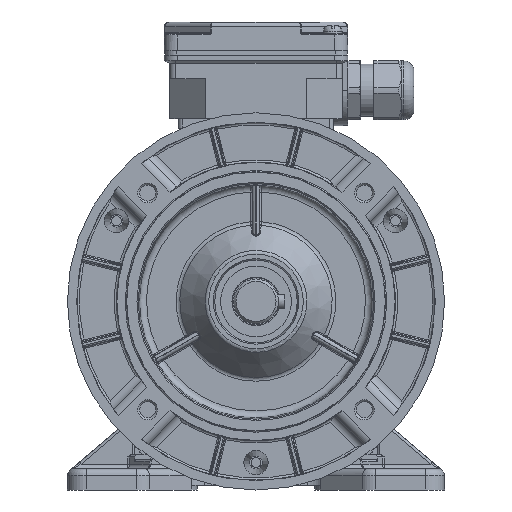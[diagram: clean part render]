
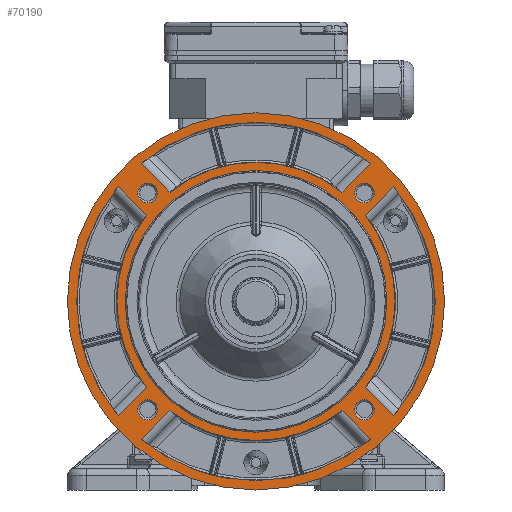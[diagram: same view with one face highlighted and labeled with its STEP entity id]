
A CAD part, left-side view. The second image highlights one B-rep face of the part: STEP entity #70190.
In plain terms, the highlighted planar face has unit normal (-1, 0, 0).
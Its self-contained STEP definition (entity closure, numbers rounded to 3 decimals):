
#4696=LINE('',#103938,#8316);
#4697=LINE('',#103947,#8317);
#4698=LINE('',#103966,#8318);
#4699=LINE('',#103975,#8319);
#4700=LINE('',#103982,#8320);
#4701=LINE('',#104001,#8321);
#4703=LINE('',#104389,#8323);
#4704=LINE('',#104400,#8324);
#8316=VECTOR('',#84265,1000.);
#8317=VECTOR('',#84272,1000.);
#8318=VECTOR('',#84279,1000.);
#8319=VECTOR('',#84286,1000.);
#8320=VECTOR('',#84289,1000.);
#8321=VECTOR('',#84296,1000.);
#8323=VECTOR('',#84366,1000.);
#8324=VECTOR('',#84373,1000.);
#18893=ORIENTED_EDGE('',*,*,#30283,.T.);
#18894=ORIENTED_EDGE('',*,*,#30282,.T.);
#18895=ORIENTED_EDGE('',*,*,#30281,.T.);
#18896=ORIENTED_EDGE('',*,*,#30280,.T.);
#18897=ORIENTED_EDGE('',*,*,#30279,.T.);
#18898=ORIENTED_EDGE('',*,*,#30328,.T.);
#18899=ORIENTED_EDGE('',*,*,#30326,.T.);
#18900=ORIENTED_EDGE('',*,*,#30329,.T.);
#18901=ORIENTED_EDGE('',*,*,#30330,.F.);
#18902=ORIENTED_EDGE('',*,*,#30331,.F.);
#18903=ORIENTED_EDGE('',*,*,#30278,.T.);
#18904=ORIENTED_EDGE('',*,*,#30277,.F.);
#18905=ORIENTED_EDGE('',*,*,#30274,.F.);
#18906=ORIENTED_EDGE('',*,*,#30272,.T.);
#18907=ORIENTED_EDGE('',*,*,#30270,.T.);
#18908=ORIENTED_EDGE('',*,*,#30268,.T.);
#18909=ORIENTED_EDGE('',*,*,#30267,.F.);
#18910=ORIENTED_EDGE('',*,*,#30264,.F.);
#18911=ORIENTED_EDGE('',*,*,#30262,.T.);
#18912=ORIENTED_EDGE('',*,*,#30260,.T.);
#18913=ORIENTED_EDGE('',*,*,#30259,.F.);
#18914=ORIENTED_EDGE('',*,*,#30256,.F.);
#30256=EDGE_CURVE('',#36594,#36595,#40259,.T.);
#30259=EDGE_CURVE('',#36595,#36596,#4696,.T.);
#30260=EDGE_CURVE('',#36597,#36596,#40260,.T.);
#30262=EDGE_CURVE('',#36594,#36597,#4697,.T.);
#30264=EDGE_CURVE('',#36598,#36599,#40261,.T.);
#30267=EDGE_CURVE('',#36599,#36600,#4698,.T.);
#30268=EDGE_CURVE('',#36601,#36600,#40262,.T.);
#30270=EDGE_CURVE('',#36598,#36601,#4699,.T.);
#30272=EDGE_CURVE('',#36603,#36602,#4700,.T.);
#30274=EDGE_CURVE('',#36603,#36604,#40263,.T.);
#30277=EDGE_CURVE('',#36604,#36605,#4701,.T.);
#30278=EDGE_CURVE('',#36602,#36605,#40264,.T.);
#30279=EDGE_CURVE('',#36606,#36606,#40265,.F.);
#30280=EDGE_CURVE('',#36607,#36607,#40266,.F.);
#30281=EDGE_CURVE('',#36608,#36608,#40267,.F.);
#30282=EDGE_CURVE('',#36609,#36609,#40268,.F.);
#30283=EDGE_CURVE('',#36610,#36610,#40269,.F.);
#30326=EDGE_CURVE('',#36632,#36631,#4703,.T.);
#30328=EDGE_CURVE('',#36633,#36633,#40284,.T.);
#30329=EDGE_CURVE('',#36631,#36634,#40285,.T.);
#30330=EDGE_CURVE('',#36635,#36634,#4704,.T.);
#30331=EDGE_CURVE('',#36632,#36635,#40286,.T.);
#36594=VERTEX_POINT('',#103925);
#36595=VERTEX_POINT('',#103927);
#36596=VERTEX_POINT('',#103937);
#36597=VERTEX_POINT('',#103941);
#36598=VERTEX_POINT('',#103953);
#36599=VERTEX_POINT('',#103955);
#36600=VERTEX_POINT('',#103965);
#36601=VERTEX_POINT('',#103969);
#36602=VERTEX_POINT('',#103981);
#36603=VERTEX_POINT('',#103983);
#36604=VERTEX_POINT('',#103990);
#36605=VERTEX_POINT('',#104000);
#36606=VERTEX_POINT('',#104006);
#36607=VERTEX_POINT('',#104009);
#36608=VERTEX_POINT('',#104012);
#36609=VERTEX_POINT('',#104015);
#36610=VERTEX_POINT('',#104018);
#36631=VERTEX_POINT('',#104388);
#36632=VERTEX_POINT('',#104390);
#36633=VERTEX_POINT('',#104397);
#36634=VERTEX_POINT('',#104399);
#36635=VERTEX_POINT('',#104401);
#40259=CIRCLE('',#74287,76.);
#40260=CIRCLE('',#74290,59.);
#40261=CIRCLE('',#74293,76.);
#40262=CIRCLE('',#74296,59.);
#40263=CIRCLE('',#74300,76.);
#40264=CIRCLE('',#74303,59.);
#40265=CIRCLE('',#74305,4.2);
#40266=CIRCLE('',#74307,4.2);
#40267=CIRCLE('',#74309,4.2);
#40268=CIRCLE('',#74311,4.2);
#40269=CIRCLE('',#74313,55.5);
#40284=CIRCLE('',#74337,80.);
#40285=CIRCLE('',#74338,59.);
#40286=CIRCLE('',#74339,76.);
#43064=EDGE_LOOP('',(#18893));
#43065=EDGE_LOOP('',(#18894));
#43066=EDGE_LOOP('',(#18895));
#43067=EDGE_LOOP('',(#18896));
#43068=EDGE_LOOP('',(#18897));
#43069=EDGE_LOOP('',(#18898));
#43070=EDGE_LOOP('',(#18899,#18900,#18901,#18902));
#43071=EDGE_LOOP('',(#18903,#18904,#18905,#18906));
#43072=EDGE_LOOP('',(#18907,#18908,#18909,#18910));
#43073=EDGE_LOOP('',(#18911,#18912,#18913,#18914));
#46525=FACE_BOUND('',#43064,.T.);
#46526=FACE_BOUND('',#43065,.T.);
#46527=FACE_BOUND('',#43066,.T.);
#46528=FACE_BOUND('',#43067,.T.);
#46529=FACE_BOUND('',#43068,.T.);
#46530=FACE_BOUND('',#43069,.T.);
#46531=FACE_BOUND('',#43070,.T.);
#46532=FACE_BOUND('',#43071,.T.);
#46533=FACE_BOUND('',#43072,.T.);
#46534=FACE_BOUND('',#43073,.T.);
#48865=PLANE('',#74336);
#70190=ADVANCED_FACE('',(#46525,#46526,#46527,#46528,#46529,#46530,#46531,
#46532,#46533,#46534),#48865,.T.);
#74287=AXIS2_PLACEMENT_3D('',#103926,#84261,#84262);
#74290=AXIS2_PLACEMENT_3D('',#103940,#84268,#84269);
#74293=AXIS2_PLACEMENT_3D('',#103954,#84275,#84276);
#74296=AXIS2_PLACEMENT_3D('',#103968,#84282,#84283);
#74300=AXIS2_PLACEMENT_3D('',#103989,#84292,#84293);
#74303=AXIS2_PLACEMENT_3D('',#104003,#84299,#84300);
#74305=AXIS2_PLACEMENT_3D('',#104005,#84303,#84304);
#74307=AXIS2_PLACEMENT_3D('',#104008,#84307,#84308);
#74309=AXIS2_PLACEMENT_3D('',#104011,#84311,#84312);
#74311=AXIS2_PLACEMENT_3D('',#104014,#84315,#84316);
#74313=AXIS2_PLACEMENT_3D('',#104017,#84319,#84320);
#74336=AXIS2_PLACEMENT_3D('',#104395,#84367,#84368);
#74337=AXIS2_PLACEMENT_3D('',#104396,#84369,#84370);
#74338=AXIS2_PLACEMENT_3D('',#104398,#84371,#84372);
#74339=AXIS2_PLACEMENT_3D('',#104402,#84374,#84375);
#84261=DIRECTION('',(-1.,0.,0.));
#84262=DIRECTION('',(0.,0.,1.));
#84265=DIRECTION('',(0.,-0.707,0.707));
#84268=DIRECTION('',(-1.,0.,0.));
#84269=DIRECTION('',(0.,0.,1.));
#84272=DIRECTION('',(0.,-0.707,-0.707));
#84275=DIRECTION('',(-1.,0.,0.));
#84276=DIRECTION('',(0.,0.,1.));
#84279=DIRECTION('',(0.,-0.707,-0.707));
#84282=DIRECTION('',(-1.,0.,0.));
#84283=DIRECTION('',(0.,0.,1.));
#84286=DIRECTION('',(0.,0.707,-0.707));
#84289=DIRECTION('',(0.,-0.707,0.707));
#84292=DIRECTION('',(-1.,0.,0.));
#84293=DIRECTION('',(0.,0.,1.));
#84296=DIRECTION('',(0.,0.707,0.707));
#84299=DIRECTION('',(-1.,0.,0.));
#84300=DIRECTION('',(0.,0.,1.));
#84303=DIRECTION('',(-1.,0.,0.));
#84304=DIRECTION('',(0.,-1.,0.));
#84307=DIRECTION('',(-1.,0.,0.));
#84308=DIRECTION('',(0.,-1.,0.));
#84311=DIRECTION('',(-1.,0.,0.));
#84312=DIRECTION('',(0.,-1.,0.));
#84315=DIRECTION('',(-1.,0.,0.));
#84316=DIRECTION('',(0.,-1.,0.));
#84319=DIRECTION('',(-1.,0.,0.));
#84320=DIRECTION('',(0.,-1.,0.));
#84366=DIRECTION('',(0.,0.707,0.707));
#84367=DIRECTION('',(-1.,0.,0.));
#84368=DIRECTION('',(0.,-1.,0.));
#84369=DIRECTION('',(-1.,0.,0.));
#84370=DIRECTION('',(0.,1.,0.));
#84371=DIRECTION('',(-1.,0.,0.));
#84372=DIRECTION('',(0.,0.,1.));
#84373=DIRECTION('',(0.,0.707,-0.707));
#84374=DIRECTION('',(-1.,0.,0.));
#84375=DIRECTION('',(0.,0.,1.));
#103925=CARTESIAN_POINT('',(-44.3,58.461,48.562));
#103926=CARTESIAN_POINT('',(-44.3,0.,0.));
#103927=CARTESIAN_POINT('',(-44.3,58.461,-48.562));
#103937=CARTESIAN_POINT('',(-44.3,46.374,-36.475));
#103938=CARTESIAN_POINT('',(-44.3,70.057,-60.157));
#103940=CARTESIAN_POINT('',(-44.3,0.,0.));
#103941=CARTESIAN_POINT('',(-44.3,46.374,36.475));
#103947=CARTESIAN_POINT('',(-44.3,70.057,60.157));
#103953=CARTESIAN_POINT('',(-44.3,-48.562,58.461));
#103954=CARTESIAN_POINT('',(-44.3,0.,0.));
#103955=CARTESIAN_POINT('',(-44.3,48.562,58.461));
#103965=CARTESIAN_POINT('',(-44.3,36.475,46.374));
#103966=CARTESIAN_POINT('',(-44.3,60.157,70.057));
#103968=CARTESIAN_POINT('',(-44.3,0.,0.));
#103969=CARTESIAN_POINT('',(-44.3,-36.475,46.374));
#103975=CARTESIAN_POINT('',(-44.3,-60.157,70.057));
#103981=CARTESIAN_POINT('',(-44.3,36.475,-46.374));
#103982=CARTESIAN_POINT('',(-44.3,60.157,-70.057));
#103983=CARTESIAN_POINT('',(-44.3,48.562,-58.461));
#103989=CARTESIAN_POINT('',(-44.3,0.,0.));
#103990=CARTESIAN_POINT('',(-44.3,-48.562,-58.461));
#104000=CARTESIAN_POINT('',(-44.3,-36.475,-46.374));
#104001=CARTESIAN_POINT('',(-44.3,-60.157,-70.057));
#104003=CARTESIAN_POINT('',(-44.3,0.,0.));
#104005=CARTESIAN_POINT('',(-44.3,45.962,-45.962));
#104006=CARTESIAN_POINT('',(-44.3,41.762,-45.962));
#104008=CARTESIAN_POINT('',(-44.3,45.962,45.962));
#104009=CARTESIAN_POINT('',(-44.3,41.762,45.962));
#104011=CARTESIAN_POINT('',(-44.3,-45.962,45.962));
#104012=CARTESIAN_POINT('',(-44.3,-50.162,45.962));
#104014=CARTESIAN_POINT('',(-44.3,-45.962,-45.962));
#104015=CARTESIAN_POINT('',(-44.3,-50.162,-45.962));
#104017=CARTESIAN_POINT('',(-44.3,0.,0.));
#104018=CARTESIAN_POINT('',(-44.3,-55.5,0.));
#104388=CARTESIAN_POINT('',(-44.3,-46.374,-36.475));
#104389=CARTESIAN_POINT('',(-44.3,-70.057,-60.157));
#104390=CARTESIAN_POINT('',(-44.3,-58.461,-48.562));
#104395=CARTESIAN_POINT('',(-44.3,0.,0.));
#104396=CARTESIAN_POINT('',(-44.3,0.,0.));
#104397=CARTESIAN_POINT('',(-44.3,80.,0.));
#104398=CARTESIAN_POINT('',(-44.3,0.,0.));
#104399=CARTESIAN_POINT('',(-44.3,-46.374,36.475));
#104400=CARTESIAN_POINT('',(-44.3,-70.057,60.157));
#104401=CARTESIAN_POINT('',(-44.3,-58.461,48.562));
#104402=CARTESIAN_POINT('',(-44.3,0.,0.));
